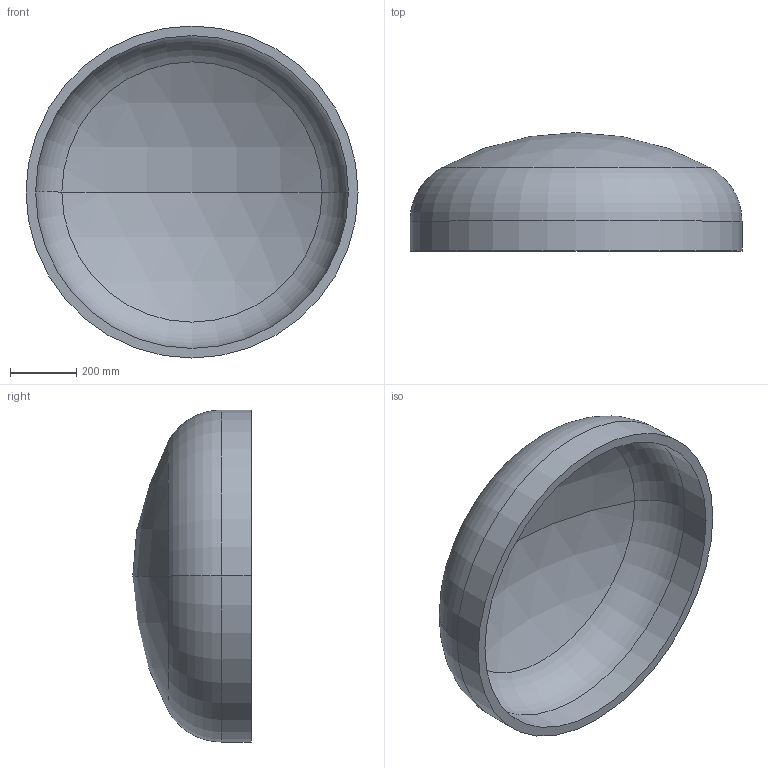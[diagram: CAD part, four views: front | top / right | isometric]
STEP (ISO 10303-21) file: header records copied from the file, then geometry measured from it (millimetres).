
FILE_DESCRIPTION (( 'STEP AP203' ), '1' );
FILE_NAME ('DIN 28013 Korbbogenform_-_Boden DIN 28013 - 1000 x 90 - I - s=29.step', '2016-07-01T08:46:19', ( '' ), ( '' ), 'SwSTEP 2.0', 'SolidWorks 2013', '' );
FILE_SCHEMA (( 'CONFIG_CONTROL_DESIGN' ));
Length unit declared in the file: millimetre
Products named in the file (1): DIN 28013 Korbbogenform_-_Boden DIN 28013 - 1000 x 90 - I - s=29
Bounding box: 1000 x 356.71 x 1000 mm (x, y, z)
Volume: 38372835.6 mm3; surface area: 2736627.2 mm2
Topology: 1 solids, 1 shells, 13 faces, 24 edges, 14 vertices
Faces by surface type: torus 4, cylinder 4, sphere 4, plane 1
Entity records: 407 total; most frequent: DIRECTION 72, CARTESIAN_POINT 52, ORIENTED_EDGE 48, AXIS2_PLACEMENT_3D 34, EDGE_CURVE 24, CIRCLE 20, EDGE_LOOP 14, VERTEX_POINT 14
